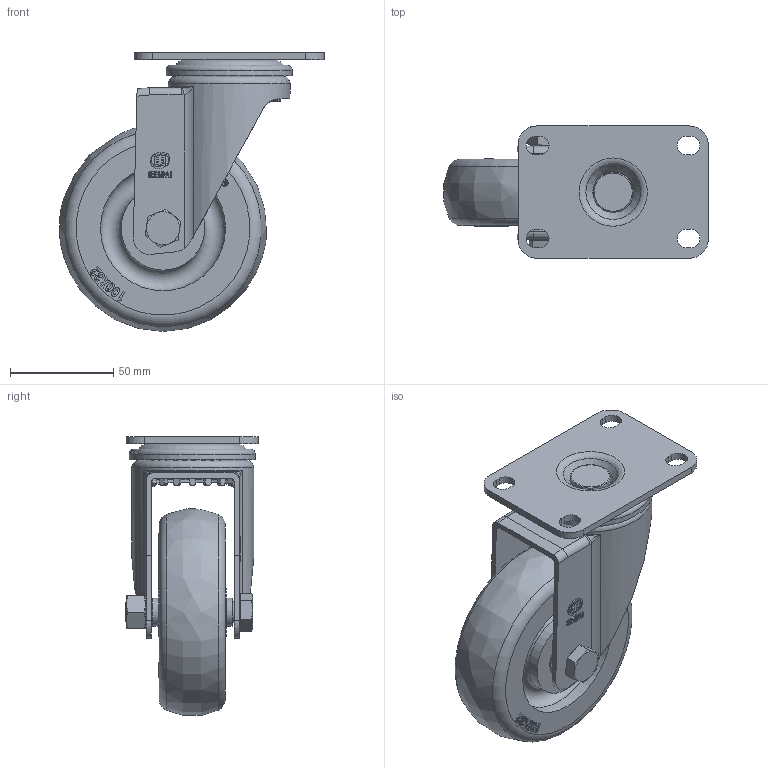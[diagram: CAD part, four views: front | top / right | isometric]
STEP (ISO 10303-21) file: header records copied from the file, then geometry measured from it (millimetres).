
FILE_DESCRIPTION(/* description */ (''),/* implementation_level */ '2;1');
FILE_NAME(/* name */ '20AC2_4_F.stp',/* time_stamp */ '2022-10-06T15:02:13+08:00',/* author */ (''),/* organization */ (''),/* preprocessor_version */ 'ST-DEVELOPER v14',/* originating_system */ 'SIEMENS PLM Software NX 8.0',/* authorisation */ '');
FILE_SCHEMA (('AUTOMOTIVE_DESIGN { 1 0 10303 214 3 1 1 1 }'));
Length unit declared in the file: millimetre
Products named in the file (1): 20AC2_4_F
Bounding box: 127.95 x 64.25 x 134.93 mm (x, y, z)
Volume: 279961.8 mm3; surface area: 83133.2 mm2
Topology: 1 solids, 1 shells, 825 faces, 2287 edges, 1520 vertices
Faces by surface type: plane 484, cylinder 173, torus 47, sphere 38, cone 36, extrusion 24, bspline 23
Full cylindrical faces by diameter (mm): 2.841 x1, 3.44 x1, 10 x2, 10.2 x2, 12 x1, 12.2 x1, 12.496 x1, 13.6 x2, 16 x1, 23 x2, 30.122 x1, 40.5 x2, 45.996 x1, 54 x1, 56 x1, 59 x1, 60.5 x2, 61 x1
Entity records: 30552 total; most frequent: CARTESIAN_POINT 11297, ORIENTED_EDGE 4164, DIRECTION 3523, EDGE_CURVE 2082, VERTEX_POINT 1419, AXIS2_PLACEMENT_3D 1224, VECTOR 1075, LINE 1051
